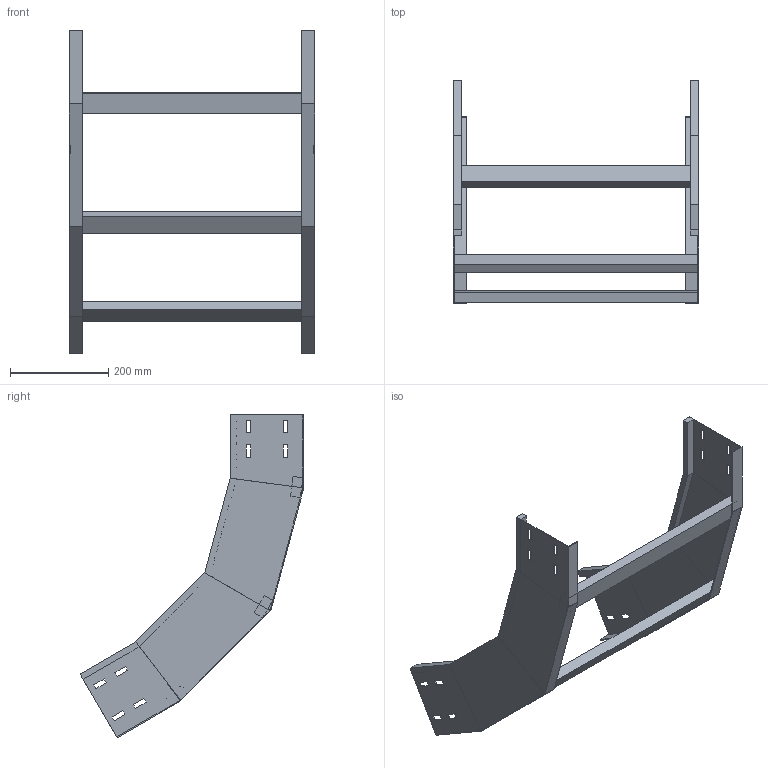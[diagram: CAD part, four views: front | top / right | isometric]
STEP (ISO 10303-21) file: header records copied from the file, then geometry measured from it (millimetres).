
FILE_DESCRIPTION (( 'STEP AP214' ), '1' );
FILE_NAME ('40J5F500.step', '2025-02-21T16:26:54', ( '' ), ( '' ), 'SwSTEP 2.0', 'SolidWorks 2023', '' );
FILE_SCHEMA (( 'AUTOMOTIVE_DESIGN' ));
Length unit declared in the file: millimetre
Products named in the file (3): 40J5F500; TRAVERSINO_500; LONGH.SALITA_60°_H150_R500
Assembly tree (5 placements, depth 2):
  40J5F500
    LONGH.SALITA_60°_H150_R500  x2
    TRAVERSINO_500  x3
Bounding box: 500 x 455.08 x 658.32 mm (x, y, z)
Volume: 1978120.4 mm3; surface area: 755199.3 mm2
Topology: 5 solids, 5 shells, 150 faces, 372 edges, 232 vertices
Faces by surface type: plane 150
Entity records: 2216 total; most frequent: CARTESIAN_POINT 372, ORIENTED_EDGE 360, DIRECTION 340, LINE 180, VECTOR 180, EDGE_CURVE 180, VERTEX_POINT 112, EDGE_LOOP 88
